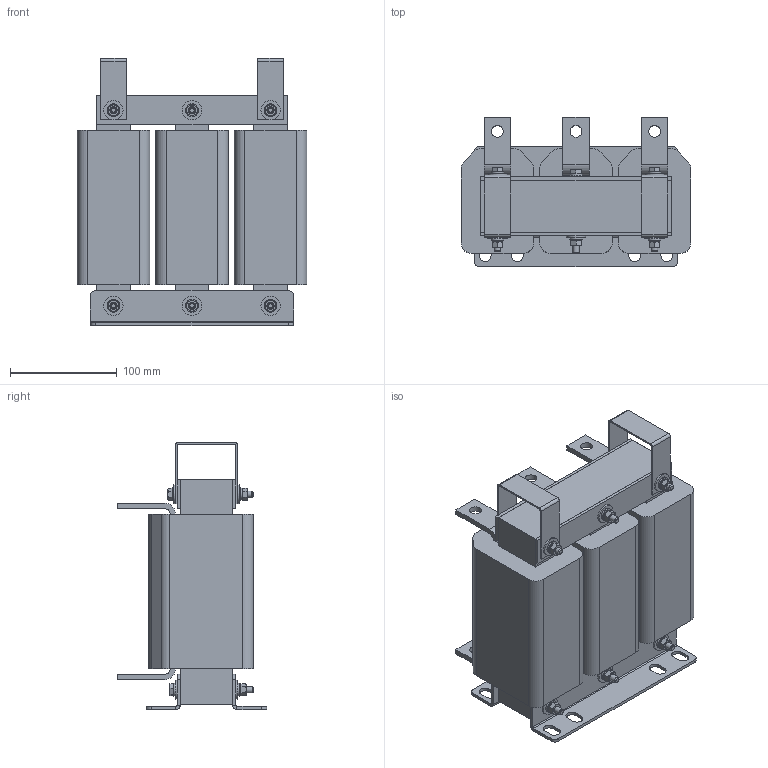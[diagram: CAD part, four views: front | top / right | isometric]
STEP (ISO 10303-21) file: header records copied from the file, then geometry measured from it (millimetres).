
FILE_DESCRIPTION(('STEP AP203'), '1');
FILE_NAME('Ñåòåâîé äðîññåëü _ ISF-90_180-4', '', ('UNSPECIFIED'), ('UNSPECIFIED'), 'C3D Converter', 'C3D Toolkit', '');
FILE_SCHEMA(('CONFIG_CONTROL_DESIGN'));
Length unit declared in the file: millimetre
Products named in the file (17): ISF-90_180-4; DIN 125 (A); ГОСТ 15591-70; DIN 127 (A); DIN 934
Assembly tree (63 placements, depth 3):
  ISF-90_180-4
    ISF-90_180-4
    ISF-90_180-4  x2
    ISF-90_180-4  x3
    ISF-90_180-4  x6
    (unnamed)  x12
      (unnamed)
    DIN 125 (A)  x12
      (unnamed)
    ГОСТ 15591-70  x6
      (unnamed)
    DIN 127 (A)  x6
      (unnamed)
    DIN 934  x6
      (unnamed)
    ISF-90_180-4  x2
    ISF-90_180-4  x2
Bounding box: 215 x 140 x 250 mm (x, y, z)
Volume: 3456228.5 mm3; surface area: 512017.4 mm2
Topology: 59 solids, 59 shells, 622 faces, 1344 edges, 846 vertices
Faces by surface type: plane 354, cylinder 166, cone 96, torus 6
Full cylindrical faces by diameter (mm): 4.917 x6, 6 x22, 6.4 x24, 8 x6, 11 x6, 12 x12, 18 x12
Entity records: 8119 total; most frequent: CARTESIAN_POINT 1657, DIRECTION 932, ORIENTED_EDGE 754, EDGE_CURVE 377, AXIS2_PLACEMENT_3D 352, VERTEX_POINT 255, EDGE_LOOP 250, LINE 228
